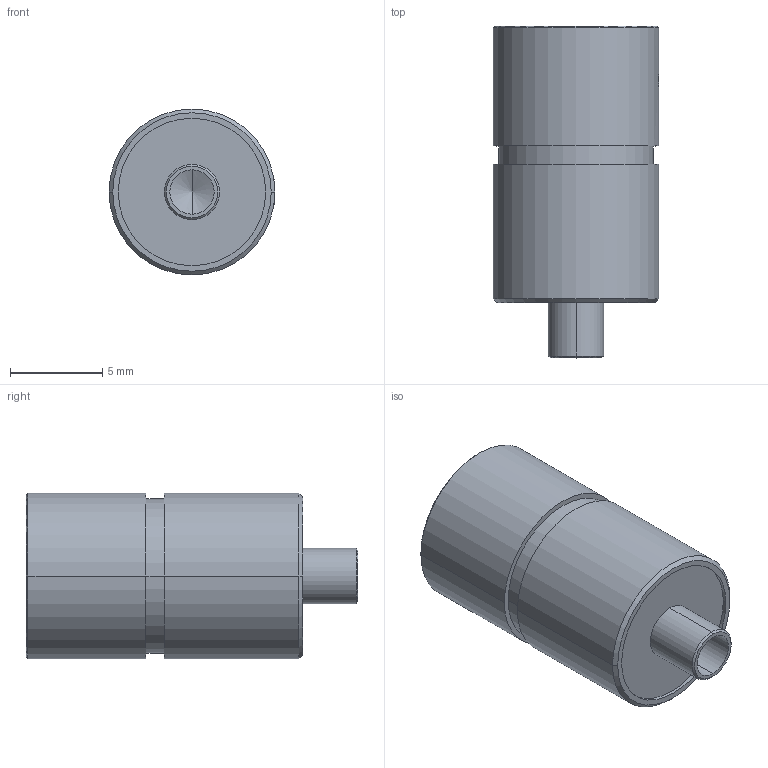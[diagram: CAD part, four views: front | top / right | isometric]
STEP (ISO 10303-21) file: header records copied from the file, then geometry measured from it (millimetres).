
FILE_DESCRIPTION((''),'2;1');
FILE_NAME('S025A','2023-09-10T',('WYH'),(''),'PRO/ENGINEER BY PARAMETRIC TECHNOLOGY CORPORATION, 2013040','PRO/ENGINEER BY PARAMETRIC TECHNOLOGY CORPORATION, 2013040','');
FILE_SCHEMA(('CONFIG_CONTROL_DESIGN'));
Length unit declared in the file: millimetre
Products named in the file (1): S025A
Bounding box: 9 x 18 x 9 mm (x, y, z)
Volume: 513.3 mm3; surface area: 1221.1 mm2
Topology: 1 solids, 1 shells, 479 faces, 1335 edges, 885 vertices
Faces by surface type: plane 432, cylinder 35, cone 10, bspline 2
Entity records: 15324 total; most frequent: CARTESIAN_POINT 3274, ORIENTED_EDGE 2666, DIRECTION 2206, EDGE_CURVE 1333, VECTOR 964, LINE 964, VERTEX_POINT 885, AXIS2_PLACEMENT_3D 621
